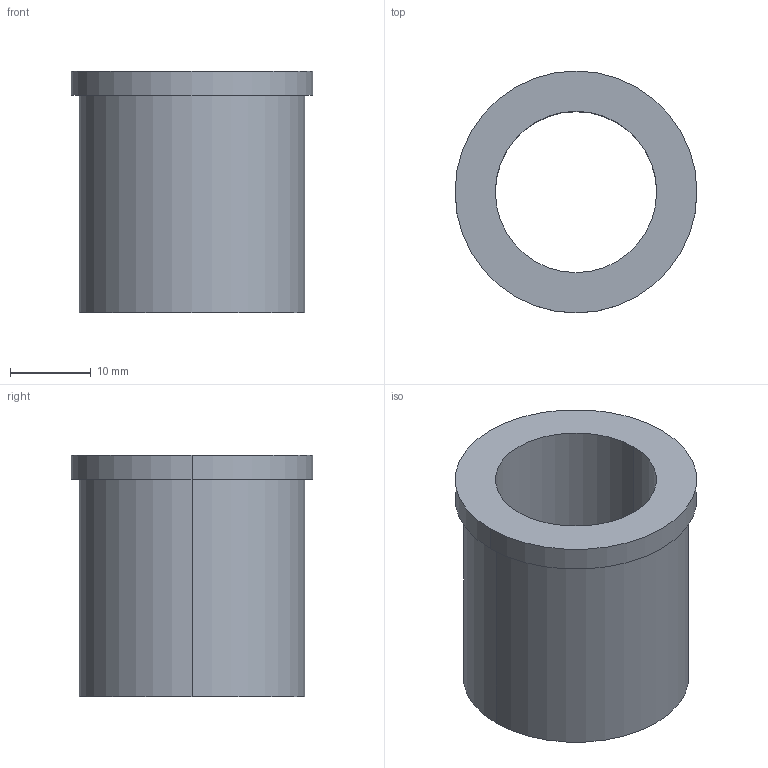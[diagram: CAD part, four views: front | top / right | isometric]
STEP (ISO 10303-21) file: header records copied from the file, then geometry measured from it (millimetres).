
FILE_DESCRIPTION(/* description */ (''),/* implementation_level */ '2;1');
FILE_NAME(/* name */ '3d_tghz20-30_00353_r00.stp',/* time_stamp */ '2011-01-10T14:09:01+09:00',/* author */ ('MISUMI'),/* organization */ (''),/* preprocessor_version */ 'ST-DEVELOPER v11',/* originating_system */ 'UGS - NX 5.0',/* authorisation */ '');
FILE_SCHEMA (('CONFIG_CONTROL_DESIGN'));
Length unit declared in the file: millimetre
Products named in the file (1): 3d_tghz20-30_00353_r00
Bounding box: 30 x 30 x 30 mm (x, y, z)
Volume: 9321.1 mm3; surface area: 5328.1 mm2
Topology: 1 solids, 1 shells, 9 faces, 18 edges, 12 vertices
Faces by surface type: cylinder 6, plane 3
Entity records: 334 total; most frequent: DIRECTION 50, CARTESIAN_POINT 40, ORIENTED_EDGE 36, AXIS2_PLACEMENT_3D 22, EDGE_CURVE 18, EDGE_LOOP 12, CIRCLE 12, VERTEX_POINT 12
